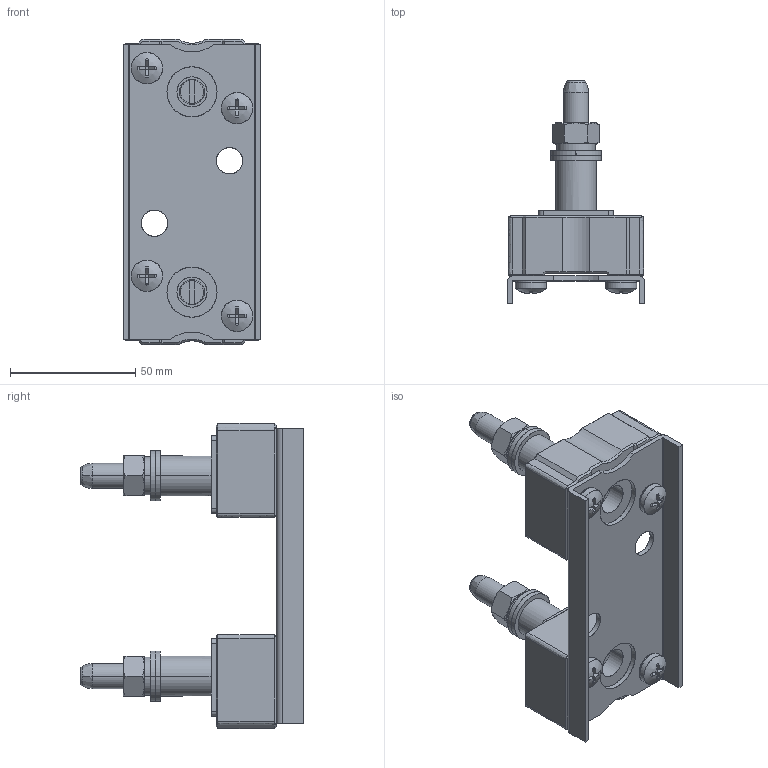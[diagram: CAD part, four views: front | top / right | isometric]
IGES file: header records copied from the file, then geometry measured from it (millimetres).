
Start section: SolidWorks IGES file using analytic representation for surfaces
Global section: file name: U:\14_RD\05_Technical_office\04_Office\Hrdinova\3D modely - IGES\Varius - Ostatní\SP50U06.IGS; native system: SolidWorks 2011; preprocessor: SolidWorks 2011; author: adhrja3; date: 170620.142135; units: millimetre
Bounding box: 55 x 89.2 x 122 mm (x, y, z)
Surface area: 55121.6 mm2 (no closed solid volume)
Topology: 0 solids, 0 shells, 624 faces, 8497 edges, 8489 vertices
Faces by surface type: bspline 342, revolution 282
